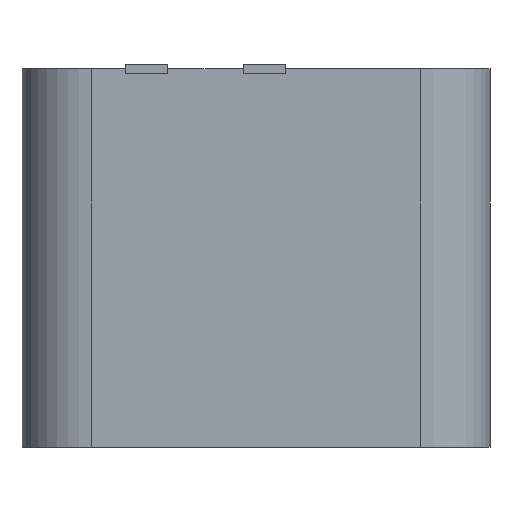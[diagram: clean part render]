
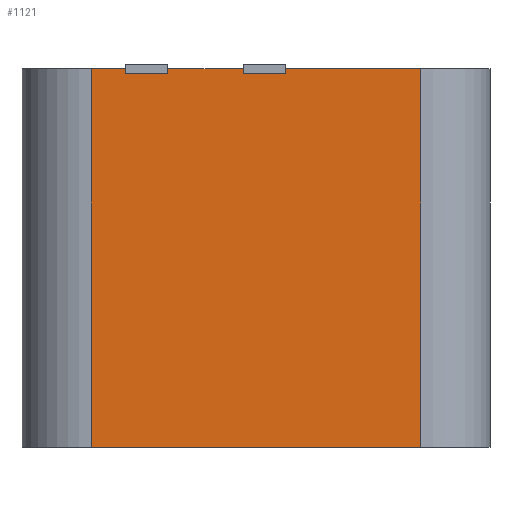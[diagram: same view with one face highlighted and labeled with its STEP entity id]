
A CAD part, left-side view. The second image highlights one B-rep face of the part: STEP entity #1121.
In plain terms, the highlighted planar face has unit normal (-1, 0, 0).
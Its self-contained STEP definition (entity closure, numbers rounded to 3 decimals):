
#44 = PLANE('',#45);
#45 = AXIS2_PLACEMENT_3D('',#46,#47,#48);
#46 = CARTESIAN_POINT('',(39.789,-81.,10.));
#47 = DIRECTION('',(0.,0.,-1.));
#48 = DIRECTION('',(1.,0.,0.));
#100 = PLANE('',#101);
#101 = AXIS2_PLACEMENT_3D('',#102,#103,#104);
#102 = CARTESIAN_POINT('',(39.789,-81.,100.));
#103 = DIRECTION('',(0.,0.,-1.));
#104 = DIRECTION('',(1.,0.,0.));
#126 = CYLINDRICAL_SURFACE('',#127,16.5);
#127 = AXIS2_PLACEMENT_3D('',#128,#129,#130);
#128 = CARTESIAN_POINT('',(-113.988,-120.11,10.));
#129 = DIRECTION('',(0.,0.,-1.));
#130 = DIRECTION('',(0.,1.,0.));
#166 = VERTEX_POINT('',#167);
#167 = CARTESIAN_POINT('',(-130.488,-120.11,10.));
#193 = EDGE_CURVE('',#194,#166,#196,.T.);
#194 = VERTEX_POINT('',#195);
#195 = CARTESIAN_POINT('',(-130.488,-41.89,10.));
#196 = SURFACE_CURVE('',#197,(#201,#208),.PCURVE_S1.);
#197 = LINE('',#198,#199);
#198 = CARTESIAN_POINT('',(-130.488,-26.89,10.));
#199 = VECTOR('',#200,1.);
#200 = DIRECTION('',(0.,-1.,0.));
#201 = PCURVE('',#44,#202);
#202 = DEFINITIONAL_REPRESENTATION('',(#203),#207);
#203 = LINE('',#204,#205);
#204 = CARTESIAN_POINT('',(-170.276,-54.11));
#205 = VECTOR('',#206,1.);
#206 = DIRECTION('',(0.,1.));
#207 = ( GEOMETRIC_REPRESENTATION_CONTEXT(2) 
PARAMETRIC_REPRESENTATION_CONTEXT() REPRESENTATION_CONTEXT('2D SPACE',''
  ) );
#208 = PCURVE('',#209,#214);
#209 = PLANE('',#210);
#210 = AXIS2_PLACEMENT_3D('',#211,#212,#213);
#211 = CARTESIAN_POINT('',(-130.488,-41.89,10.));
#212 = DIRECTION('',(1.,0.,0.));
#213 = DIRECTION('',(0.,-1.,0.));
#214 = DEFINITIONAL_REPRESENTATION('',(#215),#219);
#215 = LINE('',#216,#217);
#216 = CARTESIAN_POINT('',(-15.,0.));
#217 = VECTOR('',#218,1.);
#218 = DIRECTION('',(1.,0.));
#219 = ( GEOMETRIC_REPRESENTATION_CONTEXT(2) 
PARAMETRIC_REPRESENTATION_CONTEXT() REPRESENTATION_CONTEXT('2D SPACE',''
  ) );
#238 = CYLINDRICAL_SURFACE('',#239,16.5);
#239 = AXIS2_PLACEMENT_3D('',#240,#241,#242);
#240 = CARTESIAN_POINT('',(-113.988,-41.89,10.));
#241 = DIRECTION('',(0.,-0.,-1.));
#242 = DIRECTION('',(0.,1.,0.));
#453 = EDGE_CURVE('',#166,#454,#456,.T.);
#454 = VERTEX_POINT('',#455);
#455 = CARTESIAN_POINT('',(-130.488,-120.11,100.));
#456 = SURFACE_CURVE('',#457,(#461,#468),.PCURVE_S1.);
#457 = LINE('',#458,#459);
#458 = CARTESIAN_POINT('',(-130.488,-120.11,10.));
#459 = VECTOR('',#460,1.);
#460 = DIRECTION('',(0.,0.,1.));
#461 = PCURVE('',#126,#462);
#462 = DEFINITIONAL_REPRESENTATION('',(#463),#467);
#463 = LINE('',#464,#465);
#464 = CARTESIAN_POINT('',(-1.571,0.));
#465 = VECTOR('',#466,1.);
#466 = DIRECTION('',(-0.,-1.));
#467 = ( GEOMETRIC_REPRESENTATION_CONTEXT(2) 
PARAMETRIC_REPRESENTATION_CONTEXT() REPRESENTATION_CONTEXT('2D SPACE',''
  ) );
#468 = PCURVE('',#209,#469);
#469 = DEFINITIONAL_REPRESENTATION('',(#470),#474);
#470 = LINE('',#471,#472);
#471 = CARTESIAN_POINT('',(78.22,-0.));
#472 = VECTOR('',#473,1.);
#473 = DIRECTION('',(0.,-1.));
#474 = ( GEOMETRIC_REPRESENTATION_CONTEXT(2) 
PARAMETRIC_REPRESENTATION_CONTEXT() REPRESENTATION_CONTEXT('2D SPACE',''
  ) );
#555 = EDGE_CURVE('',#556,#454,#558,.T.);
#556 = VERTEX_POINT('',#557);
#557 = CARTESIAN_POINT('',(-130.488,-88.,100.));
#558 = SURFACE_CURVE('',#559,(#563,#570),.PCURVE_S1.);
#559 = LINE('',#560,#561);
#560 = CARTESIAN_POINT('',(-130.488,-26.89,100.));
#561 = VECTOR('',#562,1.);
#562 = DIRECTION('',(0.,-1.,0.));
#563 = PCURVE('',#100,#564);
#564 = DEFINITIONAL_REPRESENTATION('',(#565),#569);
#565 = LINE('',#566,#567);
#566 = CARTESIAN_POINT('',(-170.276,-54.11));
#567 = VECTOR('',#568,1.);
#568 = DIRECTION('',(0.,1.));
#569 = ( GEOMETRIC_REPRESENTATION_CONTEXT(2) 
PARAMETRIC_REPRESENTATION_CONTEXT() REPRESENTATION_CONTEXT('2D SPACE',''
  ) );
#570 = PCURVE('',#209,#571);
#571 = DEFINITIONAL_REPRESENTATION('',(#572),#576);
#572 = LINE('',#573,#574);
#573 = CARTESIAN_POINT('',(-15.,-90.));
#574 = VECTOR('',#575,1.);
#575 = DIRECTION('',(1.,0.));
#576 = ( GEOMETRIC_REPRESENTATION_CONTEXT(2) 
PARAMETRIC_REPRESENTATION_CONTEXT() REPRESENTATION_CONTEXT('2D SPACE',''
  ) );
#778 = PLANE('',#779);
#779 = AXIS2_PLACEMENT_3D('',#780,#781,#782);
#780 = CARTESIAN_POINT('',(39.789,-81.,100.));
#781 = DIRECTION('',(0.,0.,-1.));
#782 = DIRECTION('',(1.,0.,0.));
#834 = PLANE('',#835);
#835 = AXIS2_PLACEMENT_3D('',#836,#837,#838);
#836 = CARTESIAN_POINT('',(39.789,-81.,100.));
#837 = DIRECTION('',(0.,0.,-1.));
#838 = DIRECTION('',(1.,0.,0.));
#1075 = EDGE_CURVE('',#194,#1076,#1078,.T.);
#1076 = VERTEX_POINT('',#1077);
#1077 = CARTESIAN_POINT('',(-130.488,-41.89,100.));
#1078 = SURFACE_CURVE('',#1079,(#1083,#1090),.PCURVE_S1.);
#1079 = LINE('',#1080,#1081);
#1080 = CARTESIAN_POINT('',(-130.488,-41.89,10.));
#1081 = VECTOR('',#1082,1.);
#1082 = DIRECTION('',(0.,0.,1.));
#1083 = PCURVE('',#238,#1084);
#1084 = DEFINITIONAL_REPRESENTATION('',(#1085),#1089);
#1085 = LINE('',#1086,#1087);
#1086 = CARTESIAN_POINT('',(4.712,0.));
#1087 = VECTOR('',#1088,1.);
#1088 = DIRECTION('',(0.,-1.));
#1089 = ( GEOMETRIC_REPRESENTATION_CONTEXT(2) 
PARAMETRIC_REPRESENTATION_CONTEXT() REPRESENTATION_CONTEXT('2D SPACE',''
  ) );
#1090 = PCURVE('',#209,#1091);
#1091 = DEFINITIONAL_REPRESENTATION('',(#1092),#1096);
#1092 = LINE('',#1093,#1094);
#1093 = CARTESIAN_POINT('',(0.,0.));
#1094 = VECTOR('',#1095,1.);
#1095 = DIRECTION('',(0.,-1.));
#1096 = ( GEOMETRIC_REPRESENTATION_CONTEXT(2) 
PARAMETRIC_REPRESENTATION_CONTEXT() REPRESENTATION_CONTEXT('2D SPACE',''
  ) );
#1121 = ADVANCED_FACE('',(#1122),#209,.F.);
#1122 = FACE_BOUND('',#1123,.F.);
#1123 = EDGE_LOOP('',(#1124,#1125,#1148,#1176,#1199,#1225,#1226,#1227));
#1124 = ORIENTED_EDGE('',*,*,#1075,.T.);
#1125 = ORIENTED_EDGE('',*,*,#1126,.T.);
#1126 = EDGE_CURVE('',#1076,#1127,#1129,.T.);
#1127 = VERTEX_POINT('',#1128);
#1128 = CARTESIAN_POINT('',(-130.488,-50.,100.));
#1129 = SURFACE_CURVE('',#1130,(#1134,#1141),.PCURVE_S1.);
#1130 = LINE('',#1131,#1132);
#1131 = CARTESIAN_POINT('',(-130.488,-26.89,100.));
#1132 = VECTOR('',#1133,1.);
#1133 = DIRECTION('',(0.,-1.,0.));
#1134 = PCURVE('',#209,#1135);
#1135 = DEFINITIONAL_REPRESENTATION('',(#1136),#1140);
#1136 = LINE('',#1137,#1138);
#1137 = CARTESIAN_POINT('',(-15.,-90.));
#1138 = VECTOR('',#1139,1.);
#1139 = DIRECTION('',(1.,0.));
#1140 = ( GEOMETRIC_REPRESENTATION_CONTEXT(2) 
PARAMETRIC_REPRESENTATION_CONTEXT() REPRESENTATION_CONTEXT('2D SPACE',''
  ) );
#1141 = PCURVE('',#778,#1142);
#1142 = DEFINITIONAL_REPRESENTATION('',(#1143),#1147);
#1143 = LINE('',#1144,#1145);
#1144 = CARTESIAN_POINT('',(-170.276,-54.11));
#1145 = VECTOR('',#1146,1.);
#1146 = DIRECTION('',(0.,1.));
#1147 = ( GEOMETRIC_REPRESENTATION_CONTEXT(2) 
PARAMETRIC_REPRESENTATION_CONTEXT() REPRESENTATION_CONTEXT('2D SPACE',''
  ) );
#1148 = ORIENTED_EDGE('',*,*,#1149,.T.);
#1149 = EDGE_CURVE('',#1127,#1150,#1152,.T.);
#1150 = VERTEX_POINT('',#1151);
#1151 = CARTESIAN_POINT('',(-130.488,-60.,100.));
#1152 = SURFACE_CURVE('',#1153,(#1157,#1164),.PCURVE_S1.);
#1153 = LINE('',#1154,#1155);
#1154 = CARTESIAN_POINT('',(-130.488,-26.89,100.));
#1155 = VECTOR('',#1156,1.);
#1156 = DIRECTION('',(0.,-1.,0.));
#1157 = PCURVE('',#209,#1158);
#1158 = DEFINITIONAL_REPRESENTATION('',(#1159),#1163);
#1159 = LINE('',#1160,#1161);
#1160 = CARTESIAN_POINT('',(-15.,-90.));
#1161 = VECTOR('',#1162,1.);
#1162 = DIRECTION('',(1.,0.));
#1163 = ( GEOMETRIC_REPRESENTATION_CONTEXT(2) 
PARAMETRIC_REPRESENTATION_CONTEXT() REPRESENTATION_CONTEXT('2D SPACE',''
  ) );
#1164 = PCURVE('',#1165,#1170);
#1165 = PLANE('',#1166);
#1166 = AXIS2_PLACEMENT_3D('',#1167,#1168,#1169);
#1167 = CARTESIAN_POINT('',(-129.488,-50.,100.));
#1168 = DIRECTION('',(-0.,0.,-1.));
#1169 = DIRECTION('',(-1.,0.,0.));
#1170 = DEFINITIONAL_REPRESENTATION('',(#1171),#1175);
#1171 = LINE('',#1172,#1173);
#1172 = CARTESIAN_POINT('',(1.,23.11));
#1173 = VECTOR('',#1174,1.);
#1174 = DIRECTION('',(0.,-1.));
#1175 = ( GEOMETRIC_REPRESENTATION_CONTEXT(2) 
PARAMETRIC_REPRESENTATION_CONTEXT() REPRESENTATION_CONTEXT('2D SPACE',''
  ) );
#1176 = ORIENTED_EDGE('',*,*,#1177,.T.);
#1177 = EDGE_CURVE('',#1150,#1178,#1180,.T.);
#1178 = VERTEX_POINT('',#1179);
#1179 = CARTESIAN_POINT('',(-130.488,-78.,100.));
#1180 = SURFACE_CURVE('',#1181,(#1185,#1192),.PCURVE_S1.);
#1181 = LINE('',#1182,#1183);
#1182 = CARTESIAN_POINT('',(-130.488,-26.89,100.));
#1183 = VECTOR('',#1184,1.);
#1184 = DIRECTION('',(0.,-1.,0.));
#1185 = PCURVE('',#209,#1186);
#1186 = DEFINITIONAL_REPRESENTATION('',(#1187),#1191);
#1187 = LINE('',#1188,#1189);
#1188 = CARTESIAN_POINT('',(-15.,-90.));
#1189 = VECTOR('',#1190,1.);
#1190 = DIRECTION('',(1.,0.));
#1191 = ( GEOMETRIC_REPRESENTATION_CONTEXT(2) 
PARAMETRIC_REPRESENTATION_CONTEXT() REPRESENTATION_CONTEXT('2D SPACE',''
  ) );
#1192 = PCURVE('',#834,#1193);
#1193 = DEFINITIONAL_REPRESENTATION('',(#1194),#1198);
#1194 = LINE('',#1195,#1196);
#1195 = CARTESIAN_POINT('',(-170.276,-54.11));
#1196 = VECTOR('',#1197,1.);
#1197 = DIRECTION('',(0.,1.));
#1198 = ( GEOMETRIC_REPRESENTATION_CONTEXT(2) 
PARAMETRIC_REPRESENTATION_CONTEXT() REPRESENTATION_CONTEXT('2D SPACE',''
  ) );
#1199 = ORIENTED_EDGE('',*,*,#1200,.T.);
#1200 = EDGE_CURVE('',#1178,#556,#1201,.T.);
#1201 = SURFACE_CURVE('',#1202,(#1206,#1213),.PCURVE_S1.);
#1202 = LINE('',#1203,#1204);
#1203 = CARTESIAN_POINT('',(-130.488,-26.89,100.));
#1204 = VECTOR('',#1205,1.);
#1205 = DIRECTION('',(0.,-1.,0.));
#1206 = PCURVE('',#209,#1207);
#1207 = DEFINITIONAL_REPRESENTATION('',(#1208),#1212);
#1208 = LINE('',#1209,#1210);
#1209 = CARTESIAN_POINT('',(-15.,-90.));
#1210 = VECTOR('',#1211,1.);
#1211 = DIRECTION('',(1.,0.));
#1212 = ( GEOMETRIC_REPRESENTATION_CONTEXT(2) 
PARAMETRIC_REPRESENTATION_CONTEXT() REPRESENTATION_CONTEXT('2D SPACE',''
  ) );
#1213 = PCURVE('',#1214,#1219);
#1214 = PLANE('',#1215);
#1215 = AXIS2_PLACEMENT_3D('',#1216,#1217,#1218);
#1216 = CARTESIAN_POINT('',(-129.488,-78.,100.));
#1217 = DIRECTION('',(-0.,0.,-1.));
#1218 = DIRECTION('',(-1.,0.,0.));
#1219 = DEFINITIONAL_REPRESENTATION('',(#1220),#1224);
#1220 = LINE('',#1221,#1222);
#1221 = CARTESIAN_POINT('',(1.,51.11));
#1222 = VECTOR('',#1223,1.);
#1223 = DIRECTION('',(0.,-1.));
#1224 = ( GEOMETRIC_REPRESENTATION_CONTEXT(2) 
PARAMETRIC_REPRESENTATION_CONTEXT() REPRESENTATION_CONTEXT('2D SPACE',''
  ) );
#1225 = ORIENTED_EDGE('',*,*,#555,.T.);
#1226 = ORIENTED_EDGE('',*,*,#453,.F.);
#1227 = ORIENTED_EDGE('',*,*,#193,.F.);
